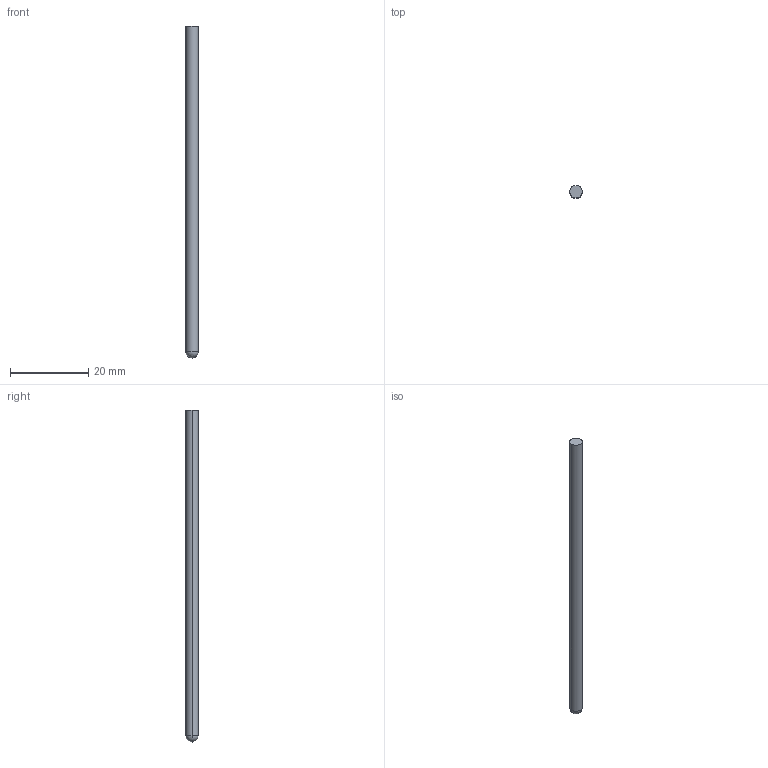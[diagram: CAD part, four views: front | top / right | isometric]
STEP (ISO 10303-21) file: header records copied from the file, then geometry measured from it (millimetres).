
FILE_DESCRIPTION (( 'STEP AP214' ), '1' );
FILE_NAME ('4345T15_.125in rod - Top Piston Ball End.STEP', '2023-02-17T19:15:04', ( '' ), ( '' ), 'SwSTEP 2.0', 'SolidWorks 2022', '' );
FILE_SCHEMA (( 'AUTOMOTIVE_DESIGN' ));
Length unit declared in the file: inch
Products named in the file (1): 4345T15_.125in rod - Top Piston Ball End
Bounding box: 3.17 x 3.17 x 84.6 mm (x, y, z)
Volume: 665.6 mm3; surface area: 851.8 mm2
Topology: 1 solids, 1 shells, 5 faces, 12 edges, 7 vertices
Faces by surface type: sphere 2, cylinder 2, plane 1
Entity records: 160 total; most frequent: DIRECTION 26, CARTESIAN_POINT 19, ORIENTED_EDGE 16, AXIS2_PLACEMENT_3D 12, EDGE_CURVE 8, CIRCLE 6, FACE_OUTER_BOUND 5, ADVANCED_FACE 5
